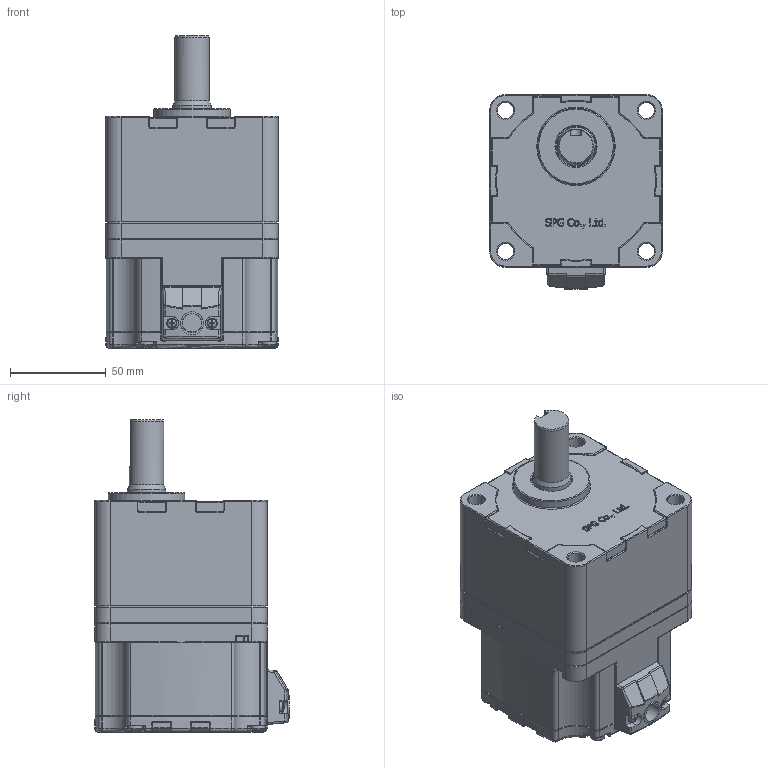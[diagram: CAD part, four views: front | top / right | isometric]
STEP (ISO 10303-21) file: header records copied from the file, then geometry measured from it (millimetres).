
FILE_DESCRIPTION((''),'2;1');
FILE_NAME('C:\Documents and Settings\Administrator\바탕 화면\BLDC 3D FILE\GEARED MOTOR\90-RATIO 200.stp','2014-06-19T16:09:42',('kdhkdh'),(''),'Autodesk Inventor 2011','Autodesk Inventor 2011','');
FILE_SCHEMA(('AUTOMOTIVE_DESIGN { 1 0 10303 214 1 1 1 1 }'));
Length unit declared in the file: millimetre
Products named in the file (1): 부품1
Bounding box: 90 x 101.5 x 163 mm (x, y, z)
Volume: 901909.2 mm3; surface area: 99505.9 mm2
Topology: 1 solids, 19 shells, 1336 faces, 3320 edges, 1967 vertices
Faces by surface type: cylinder 409, plane 386, bspline 215, torus 164, cone 104, sphere 58
Full cylindrical faces by diameter (mm): 2.729 x2, 3 x6, 3.5 x2, 3.621 x4, 4 x12, 4.5 x4, 5 x4, 5.3 x2, 7.62 x1, 7.64 x4, 8 x4, 8.5 x12, 9 x1, 10 x1, 12 x2, 18 x1, 20 x1, 21 x1, 22 x1, 40 x1, 70 x1, 83 x3, 86 x2
Entity records: 42684 total; most frequent: CARTESIAN_POINT 13184, ORIENTED_EDGE 6050, DIRECTION 5973, EDGE_CURVE 3025, AXIS2_PLACEMENT_3D 2400, VERTEX_POINT 1899, EDGE_LOOP 1542, FACE_OUTER_BOUND 1336
